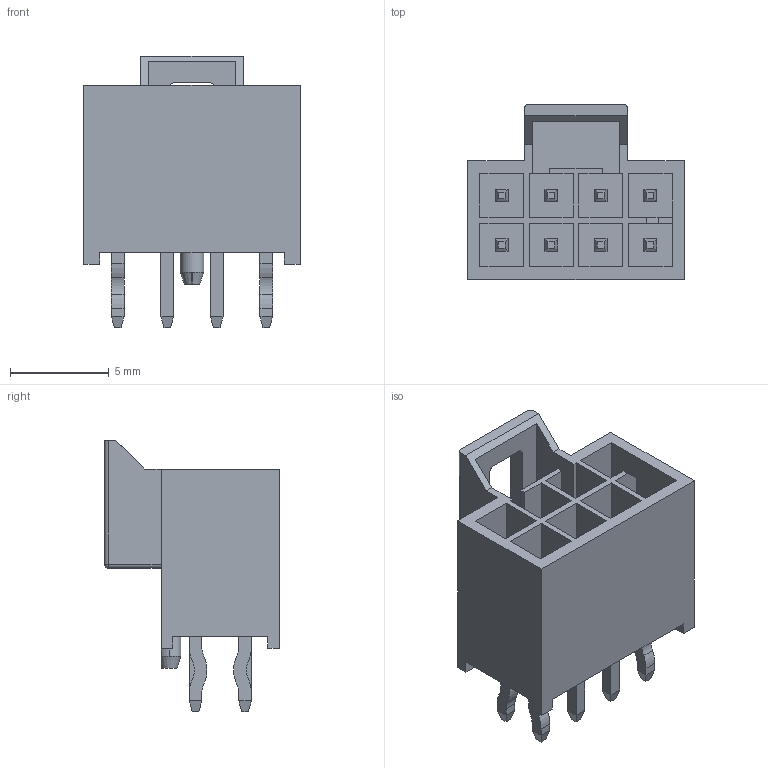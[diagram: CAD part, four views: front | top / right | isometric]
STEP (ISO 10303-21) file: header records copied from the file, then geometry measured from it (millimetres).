
FILE_DESCRIPTION (( 'STEP AP203' ), '1' );
FILE_NAME ('GT-A2513WVD-208BMT01.STEP', '2026-06-22T07:53:15', ( '' ), ( '' ), 'SwSTEP 2.0', 'SolidWorks 2020', '' );
FILE_SCHEMA (( 'CONFIG_CONTROL_DESIGN' ));
Length unit declared in the file: millimetre
Products named in the file (1): GT-A2513WVD-208BMT01
Bounding box: 10.94 x 8.84 x 13.71 mm (x, y, z)
Volume: 368.6 mm3; surface area: 1124.1 mm2
Topology: 1 solids, 1 shells, 532 faces, 1403 edges, 910 vertices
Faces by surface type: plane 421, bspline 71, cylinder 35, cone 3, sphere 2
Entity records: 19655 total; most frequent: CARTESIAN_POINT 6875, ORIENTED_EDGE 2802, DIRECTION 2256, EDGE_CURVE 1401, VECTOR 1182, LINE 1182, VERTEX_POINT 910, EDGE_LOOP 573
